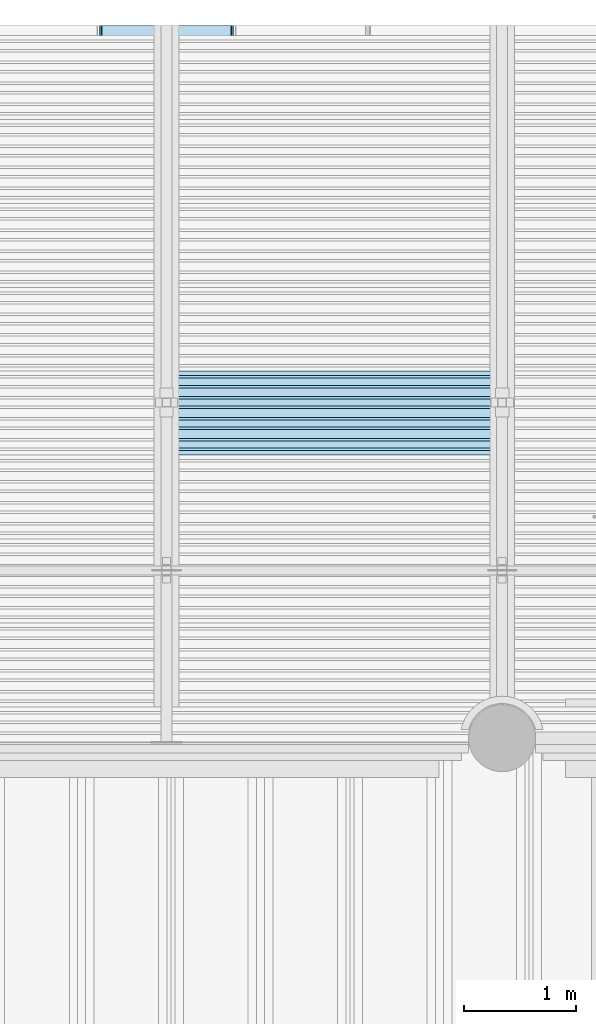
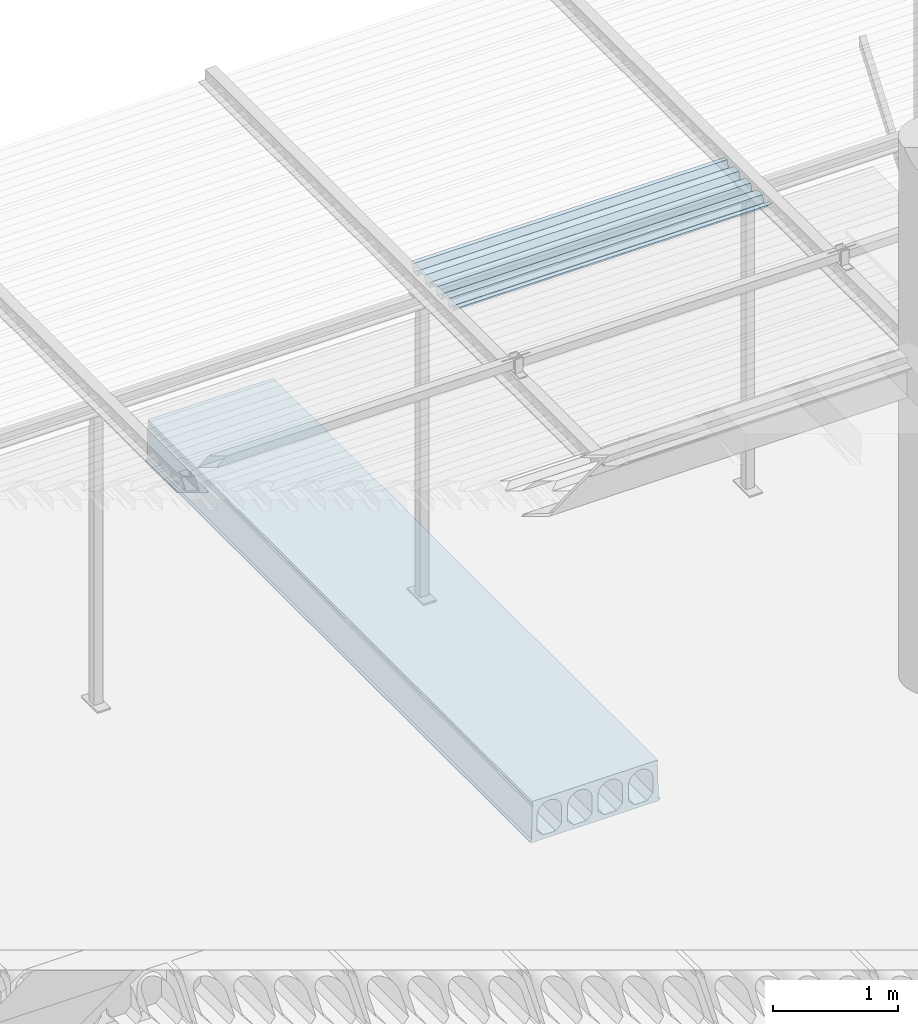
# One storey, part 90 of 98: 2 slabs.
"""IFC2X3 building model written with IfcOpenShell, lengths in millimetres."""

from ifc_helpers import new_model, entity, si_unit, converted_unit, derived_unit, direction, frame, origin_with_axes, place, context, subcontext, project, spatial, faceted_brep, material, type_object, element, save


model = new_model("IFC2X3")

# Units and contexts
model_context = context("Model", 3, precision=0.01, world=frame((0.0, 4.29681676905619e-09, 0.0)), true_north=direction((4.01073788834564e-13, 1.0)))
plan_context = context("Plan", 3, precision=0.01, world=frame((0.0, 4.29681676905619e-09, 0.0)), true_north=direction((4.01073788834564e-13, 1.0)))
body_context = subcontext(model_context, "Body", "Model", "MODEL_VIEW")
ifc_project = project(units=[converted_unit("PLANEANGLEUNIT", "DEGREE", entity("IfcPositiveLengthMeasure", 0.0174532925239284), si_unit("PLANEANGLEUNIT", "RADIAN"), dimensions=[0, 0, 0, 0, 0, 0, 0]), si_unit("AREAUNIT", "SQUARE_METRE"), si_unit("LENGTHUNIT", "METRE", prefix="MILLI"), si_unit("MASSUNIT", "GRAM", prefix="KILO"), si_unit("POWERUNIT", "WATT"), si_unit("PRESSUREUNIT", "PASCAL"), si_unit("FORCEUNIT", "NEWTON", prefix="KILO"), si_unit("ELECTRICCURRENTUNIT", "AMPERE"), si_unit("THERMODYNAMICTEMPERATUREUNIT", "DEGREE_CELSIUS"), si_unit("TIMEUNIT", "SECOND"), si_unit("VOLUMEUNIT", "CUBIC_METRE"), derived_unit("LINEARVELOCITYUNIT", [(si_unit("LENGTHUNIT", "METRE"), 1), (si_unit("TIMEUNIT", "SECOND"), -1)]), derived_unit("VOLUMETRICFLOWRATEUNIT", [(si_unit("VOLUMEUNIT", "CUBIC_METRE"), 1), (si_unit("TIMEUNIT", "SECOND"), -1)]), derived_unit("THERMALTRANSMITTANCEUNIT", [(si_unit("POWERUNIT", "WATT"), 1), (si_unit("THERMODYNAMICTEMPERATUREUNIT", "KELVIN"), -1), (si_unit("AREAUNIT", "SQUARE_METRE"), -1)])], contexts=[model_context, plan_context])

# Site, building, storey
site_placement = place(None, frame((0.0, -4.29681676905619e-09, 0.0), z_axis=(0.0, 0.0, 1.0), x_axis=(1.0, 0.0, 0.0)))
site = spatial("IfcSite", under=ifc_project, at=site_placement, Name="Gardermoen", CompositionType="ELEMENT")
building_placement = place(site_placement, frame((0.0, 4.29681676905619e-09, 0.0), z_axis=(0.0, 0.0, 1.0), x_axis=(1.0, 0.0, 0.0)))
building = spatial("IfcBuilding", under=site, at=building_placement, Name="TS", CompositionType="ELEMENT")
storey_placement = place(building_placement, origin_with_axes())
storey = spatial("IfcBuildingStorey", under=building, at=storey_placement, Name="D", CompositionType="ELEMENT", Elevation=0.0)

# Slabs
slab_type_1 = type_object("IfcSlabType", Name="HD400", PredefinedType="NOTDEFINED")
slab_1_placement = place(storey_placement, frame((525999.999766, 414739.995625, 203600.0), z_axis=(0.0, 0.0, 1.0), x_axis=(0.0, 1.0, 0.0)))
element("IfcSlab", 1, at=slab_1_placement, inside=storey, type_object=slab_type_1, Name="HULLDEKKE", ObjectType="HD400", PredefinedType="FLOOR", context=body_context, shape_type="Brep", body=[
    faceted_brep([(6130.19582840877, 600.0, -190.0), (6130.19582840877, 600.0, -180.0), (0.0, 600.0, -180.0), (0.0, 600.0, -190.0), (6130.19582840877, 585.0, -170.0), (0.0, 585.0, -170.0), (6130.19582840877, 577.5, 145.0), (0.0, 577.5, 145.0), (6130.19582840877, 570.0, 160.0), (0.0, 570.0, 160.0), (6130.19582840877, 577.5, 175.0), (0.0, 577.5, 175.0), (6130.19582840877, 577.5, 200.0), (0.0, 577.5, 200.0), (6130.19582840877, -577.5, 200.0), (0.0, -577.5, 200.0), (6130.19582840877, -577.5, 175.0), (0.0, -577.5, 175.0), (6130.19582840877, -570.0, 160.0), (0.0, -570.0, 160.0), (6130.19582840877, -577.5, 145.0), (0.0, -577.5, 145.0), (6130.19582840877, -585.0, -170.0), (0.0, -585.0, -170.0), (6130.19582840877, -600.0, -180.0), (0.0, -600.0, -180.0), (6130.19582840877, -600.0, -190.0), (0.0, -600.0, -190.0), (6130.19582840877, -583.380004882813, -200.0), (0.0, -583.380004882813, -200.0), (6130.19582840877, 583.380004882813, -200.0), (0.0, 583.380004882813, -200.0), (6130.19582840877, -362.5, -160.0), (6130.19582840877, -477.5, -160.0), (0.0, -477.5, -160.0), (0.0, -362.5, -160.0), (6130.19582840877, -532.5, -105.0), (0.0, -532.5, -105.0), (6130.19582840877, -532.5, 47.5), (0.0, -532.5, 47.5), (6130.19582840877, -532.115755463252, 56.7901763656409), (0.0, -532.115755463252, 56.7901763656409), (6130.19582840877, -530.965646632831, 66.0168914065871), (0.0, -530.965646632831, 66.0168914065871), (6130.19582840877, -529.057529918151, 75.1171173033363), (0.0, -529.057529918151, 75.1171173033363), (6130.19582840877, -526.404439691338, 84.028690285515), (0.0, -526.404439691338, 84.028690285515), (6130.19582840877, -523.024499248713, 92.6907352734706), (0.0, -523.024499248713, 92.6907352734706), (6130.19582840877, -518.940797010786, 101.044081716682), (0.0, -518.940797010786, 101.044081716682), (6130.19582840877, -514.181228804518, 109.031667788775), (0.0, -514.181228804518, 109.031667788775), (6130.19582840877, -508.778307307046, 116.598930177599), (0.0, -508.778307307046, 116.598930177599), (6130.19582840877, -502.768939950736, 123.694176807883), (0.0, -502.768939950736, 123.694176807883), (6130.19582840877, -496.194176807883, 130.268939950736), (0.0, -496.194176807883, 130.268939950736), (6130.19582840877, -489.098930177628, 136.278307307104), (0.0, -489.098930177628, 136.278307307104), (6130.19582840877, -481.531667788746, 141.681228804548), (0.0, -481.531667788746, 141.681228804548), (6130.19582840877, -473.544081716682, 146.440797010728), (0.0, -473.544081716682, 146.440797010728), (6130.19582840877, -465.190735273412, 150.524499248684), (0.0, -465.190735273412, 150.524499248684), (6130.19582840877, -456.528690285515, 153.904439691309), (0.0, -456.528690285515, 153.904439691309), (6130.19582840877, -447.617117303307, 156.55752991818), (0.0, -447.617117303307, 156.55752991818), (6130.19582840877, -438.516891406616, 158.465646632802), (0.0, -438.516891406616, 158.465646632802), (6130.19582840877, -429.290176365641, 159.615755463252), (0.0, -429.290176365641, 159.615755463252), (6130.19582840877, -420.0, 160.0), (0.0, -420.0, 160.0), (6130.19582840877, -410.709823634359, 159.615755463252), (0.0, -410.709823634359, 159.615755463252), (6130.19582840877, -401.483108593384, 158.465646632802), (0.0, -401.483108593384, 158.465646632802), (6130.19582840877, -392.382882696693, 156.55752991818), (0.0, -392.382882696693, 156.55752991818), (6130.19582840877, -383.471309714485, 153.904439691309), (0.0, -383.471309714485, 153.904439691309), (6130.19582840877, -374.809264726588, 150.524499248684), (0.0, -374.809264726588, 150.524499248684), (6130.19582840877, -366.455918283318, 146.440797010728), (0.0, -366.455918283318, 146.440797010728), (6130.19582840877, -358.468332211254, 141.681228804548), (0.0, -358.468332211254, 141.681228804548), (6130.19582840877, -350.901069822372, 136.278307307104), (0.0, -350.901069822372, 136.278307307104), (6130.19582840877, -343.805823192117, 130.268939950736), (0.0, -343.805823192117, 130.268939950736), (6130.19582840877, -337.231060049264, 123.694176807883), (0.0, -337.231060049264, 123.694176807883), (6130.19582840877, -331.221692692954, 116.598930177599), (0.0, -331.221692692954, 116.598930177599), (6130.19582840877, -325.818771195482, 109.031667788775), (0.0, -325.818771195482, 109.031667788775), (6130.19582840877, -321.059202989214, 101.044081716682), (0.0, -321.059202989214, 101.044081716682), (6130.19582840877, -316.975500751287, 92.6907352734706), (0.0, -316.975500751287, 92.6907352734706), (6130.19582840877, -313.595560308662, 84.028690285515), (0.0, -313.595560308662, 84.028690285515), (6130.19582840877, -310.942470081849, 75.1171173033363), (0.0, -310.942470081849, 75.1171173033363), (6130.19582840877, -309.034353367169, 66.0168914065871), (0.0, -309.034353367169, 66.0168914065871), (6130.19582840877, -307.884244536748, 56.7901763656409), (0.0, -307.884244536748, 56.7901763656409), (6130.19582840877, -307.5, 47.5), (0.0, -307.5, 47.5), (6130.19582840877, -307.5, -105.0), (0.0, -307.5, -105.0), (6130.19582840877, -82.5, -160.0), (6130.19582840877, -197.5, -160.0), (0.0, -197.5, -160.0), (0.0, -82.5, -160.0), (6130.19582840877, -252.5, -105.0), (0.0, -252.5, -105.0), (6130.19582840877, -252.5, 47.5), (0.0, -252.5, 47.5), (6130.19582840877, -252.115755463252, 56.7901763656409), (0.0, -252.115755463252, 56.7901763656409), (6130.19582840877, -250.965646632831, 66.0168914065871), (0.0, -250.965646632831, 66.0168914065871), (6130.19582840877, -249.057529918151, 75.1171173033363), (0.0, -249.057529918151, 75.1171173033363), (6130.19582840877, -246.404439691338, 84.028690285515), (0.0, -246.404439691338, 84.028690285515), (6130.19582840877, -243.024499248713, 92.6907352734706), (0.0, -243.024499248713, 92.6907352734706), (6130.19582840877, -238.940797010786, 101.044081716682), (0.0, -238.940797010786, 101.044081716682), (6130.19582840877, -234.181228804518, 109.031667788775), (0.0, -234.181228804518, 109.031667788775), (6130.19582840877, -228.778307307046, 116.598930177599), (0.0, -228.778307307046, 116.598930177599), (6130.19582840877, -222.768939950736, 123.694176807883), (0.0, -222.768939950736, 123.694176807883), (6130.19582840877, -216.194176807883, 130.268939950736), (0.0, -216.194176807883, 130.268939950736), (6130.19582840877, -209.098930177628, 136.278307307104), (0.0, -209.098930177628, 136.278307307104), (6130.19582840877, -201.531667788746, 141.681228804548), (0.0, -201.531667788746, 141.681228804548), (6130.19582840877, -193.544081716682, 146.440797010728), (0.0, -193.544081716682, 146.440797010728), (6130.19582840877, -185.190735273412, 150.524499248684), (0.0, -185.190735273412, 150.524499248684), (6130.19582840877, -176.528690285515, 153.904439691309), (0.0, -176.528690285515, 153.904439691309), (6130.19582840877, -167.617117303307, 156.55752991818), (0.0, -167.617117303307, 156.55752991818), (6130.19582840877, -158.516891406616, 158.465646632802), (0.0, -158.516891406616, 158.465646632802), (6130.19582840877, -149.290176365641, 159.615755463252), (0.0, -149.290176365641, 159.615755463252), (6130.19582840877, -140.0, 160.0), (0.0, -140.0, 160.0), (6130.19582840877, -130.709823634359, 159.615755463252), (0.0, -130.709823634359, 159.615755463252), (6130.19582840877, -121.483108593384, 158.465646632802), (0.0, -121.483108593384, 158.465646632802), (6130.19582840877, -112.382882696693, 156.55752991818), (0.0, -112.382882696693, 156.55752991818), (6130.19582840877, -103.471309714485, 153.904439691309), (0.0, -103.471309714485, 153.904439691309), (6130.19582840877, -94.8092647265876, 150.524499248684), (0.0, -94.8092647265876, 150.524499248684), (6130.19582840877, -86.4559182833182, 146.440797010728), (0.0, -86.4559182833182, 146.440797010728), (6130.19582840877, -78.4683322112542, 141.681228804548), (0.0, -78.4683322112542, 141.681228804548), (6130.19582840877, -70.9010698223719, 136.278307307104), (0.0, -70.9010698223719, 136.278307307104), (6130.19582840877, -63.8058231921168, 130.268939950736), (0.0, -63.8058231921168, 130.268939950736), (6130.19582840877, -57.2310600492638, 123.694176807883), (0.0, -57.2310600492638, 123.694176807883), (6130.19582840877, -51.2216926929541, 116.598930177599), (0.0, -51.2216926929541, 116.598930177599), (6130.19582840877, -45.8187711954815, 109.031667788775), (0.0, -45.8187711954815, 109.031667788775), (6130.19582840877, -41.0592029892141, 101.044081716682), (0.0, -41.0592029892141, 101.044081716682), (6130.19582840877, -36.9755007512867, 92.6907352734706), (0.0, -36.9755007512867, 92.6907352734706), (6130.19582840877, -33.5955603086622, 84.028690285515), (0.0, -33.5955603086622, 84.028690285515), (6130.19582840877, -30.942470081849, 75.1171173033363), (0.0, -30.942470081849, 75.1171173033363), (6130.19582840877, -29.0343533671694, 66.0168914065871), (0.0, -29.0343533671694, 66.0168914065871), (6130.19582840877, -27.8842445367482, 56.7901763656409), (0.0, -27.8842445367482, 56.7901763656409), (6130.19582840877, -27.5, 47.5), (0.0, -27.5, 47.5), (6130.19582840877, -27.5, -105.0), (0.0, -27.5, -105.0), (6130.19582840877, 197.5, -160.0), (6130.19582840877, 82.5, -160.0), (0.0, 82.5, -160.0), (0.0, 197.5, -160.0), (6130.19582840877, 27.5, -105.0), (0.0, 27.5, -105.0), (6130.19582840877, 27.5, 47.5), (0.0, 27.5, 47.5), (6130.19582840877, 27.8842445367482, 56.7901763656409), (0.0, 27.8842445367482, 56.7901763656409), (6130.19582840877, 29.0343533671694, 66.0168914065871), (0.0, 29.0343533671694, 66.0168914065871), (6130.19582840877, 30.942470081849, 75.1171173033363), (0.0, 30.942470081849, 75.1171173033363), (6130.19582840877, 33.5955603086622, 84.028690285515), (0.0, 33.5955603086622, 84.028690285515), (6130.19582840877, 36.9755007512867, 92.6907352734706), (0.0, 36.9755007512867, 92.6907352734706), (6130.19582840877, 41.0592029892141, 101.044081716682), (0.0, 41.0592029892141, 101.044081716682), (6130.19582840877, 45.8187711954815, 109.031667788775), (0.0, 45.8187711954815, 109.031667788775), (6130.19582840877, 51.2216926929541, 116.598930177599), (0.0, 51.2216926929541, 116.598930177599), (6130.19582840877, 57.2310600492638, 123.694176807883), (0.0, 57.2310600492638, 123.694176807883), (6130.19582840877, 63.8058231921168, 130.268939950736), (0.0, 63.8058231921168, 130.268939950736), (6130.19582840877, 70.9010698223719, 136.278307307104), (0.0, 70.9010698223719, 136.278307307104), (6130.19582840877, 78.4683322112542, 141.681228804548), (0.0, 78.4683322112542, 141.681228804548), (6130.19582840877, 86.4559182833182, 146.440797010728), (0.0, 86.4559182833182, 146.440797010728), (6130.19582840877, 94.8092647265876, 150.524499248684), (0.0, 94.8092647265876, 150.524499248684), (6130.19582840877, 103.471309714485, 153.904439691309), (0.0, 103.471309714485, 153.904439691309), (6130.19582840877, 112.382882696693, 156.55752991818), (0.0, 112.382882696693, 156.55752991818), (6130.19582840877, 121.483108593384, 158.465646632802), (0.0, 121.483108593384, 158.465646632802), (6130.19582840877, 130.709823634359, 159.615755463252), (0.0, 130.709823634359, 159.615755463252), (6130.19582840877, 140.0, 160.0), (0.0, 140.0, 160.0), (6130.19582840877, 149.290176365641, 159.615755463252), (0.0, 149.290176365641, 159.615755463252), (6130.19582840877, 158.516891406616, 158.465646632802), (0.0, 158.516891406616, 158.465646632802), (6130.19582840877, 167.617117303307, 156.55752991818), (0.0, 167.617117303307, 156.55752991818), (6130.19582840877, 176.528690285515, 153.904439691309), (0.0, 176.528690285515, 153.904439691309), (6130.19582840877, 185.190735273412, 150.524499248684), (0.0, 185.190735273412, 150.524499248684), (6130.19582840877, 193.544081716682, 146.440797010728), (0.0, 193.544081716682, 146.440797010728), (6130.19582840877, 201.531667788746, 141.681228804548), (0.0, 201.531667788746, 141.681228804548), (6130.19582840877, 209.098930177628, 136.278307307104), (0.0, 209.098930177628, 136.278307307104), (6130.19582840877, 216.194176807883, 130.268939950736), (0.0, 216.194176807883, 130.268939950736), (6130.19582840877, 222.768939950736, 123.694176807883), (0.0, 222.768939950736, 123.694176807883), (6130.19582840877, 228.778307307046, 116.598930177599), (0.0, 228.778307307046, 116.598930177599), (6130.19582840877, 234.181228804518, 109.031667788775), (0.0, 234.181228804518, 109.031667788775), (6130.19582840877, 238.940797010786, 101.044081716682), (0.0, 238.940797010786, 101.044081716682), (6130.19582840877, 243.024499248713, 92.6907352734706), (0.0, 243.024499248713, 92.6907352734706), (6130.19582840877, 246.404439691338, 84.028690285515), (0.0, 246.404439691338, 84.028690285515), (6130.19582840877, 249.057529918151, 75.1171173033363), (0.0, 249.057529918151, 75.1171173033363), (6130.19582840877, 250.965646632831, 66.0168914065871), (0.0, 250.965646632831, 66.0168914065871), (6130.19582840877, 252.115755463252, 56.7901763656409), (0.0, 252.115755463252, 56.7901763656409), (6130.19582840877, 252.5, 47.5), (0.0, 252.5, 47.5), (6130.19582840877, 252.5, -105.0), (0.0, 252.5, -105.0), (6130.19582840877, 477.5, -160.0), (6130.19582840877, 362.5, -160.0), (0.0, 362.5, -160.0), (0.0, 477.5, -160.0), (6130.19582840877, 307.5, -105.0), (0.0, 307.5, -105.0), (6130.19582840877, 307.5, 47.5), (0.0, 307.5, 47.5), (6130.19582840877, 307.884244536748, 56.7901763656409), (0.0, 307.884244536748, 56.7901763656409), (6130.19582840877, 309.034353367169, 66.0168914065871), (0.0, 309.034353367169, 66.0168914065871), (6130.19582840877, 310.942470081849, 75.1171173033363), (0.0, 310.942470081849, 75.1171173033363), (6130.19582840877, 313.595560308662, 84.028690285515), (0.0, 313.595560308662, 84.028690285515), (6130.19582840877, 316.975500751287, 92.6907352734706), (0.0, 316.975500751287, 92.6907352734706), (6130.19582840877, 321.059202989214, 101.044081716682), (0.0, 321.059202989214, 101.044081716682), (6130.19582840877, 325.818771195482, 109.031667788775), (0.0, 325.818771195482, 109.031667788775), (6130.19582840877, 331.221692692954, 116.598930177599), (0.0, 331.221692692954, 116.598930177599), (6130.19582840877, 337.231060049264, 123.694176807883), (0.0, 337.231060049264, 123.694176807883), (6130.19582840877, 343.805823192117, 130.268939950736), (0.0, 343.805823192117, 130.268939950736), (6130.19582840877, 350.901069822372, 136.278307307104), (0.0, 350.901069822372, 136.278307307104), (6130.19582840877, 358.468332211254, 141.681228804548), (0.0, 358.468332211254, 141.681228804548), (6130.19582840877, 366.455918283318, 146.440797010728), (0.0, 366.455918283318, 146.440797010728), (6130.19582840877, 374.809264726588, 150.524499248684), (0.0, 374.809264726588, 150.524499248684), (6130.19582840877, 383.471309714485, 153.904439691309), (0.0, 383.471309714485, 153.904439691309), (6130.19582840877, 392.382882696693, 156.55752991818), (0.0, 392.382882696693, 156.55752991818), (6130.19582840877, 401.483108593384, 158.465646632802), (0.0, 401.483108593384, 158.465646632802), (6130.19582840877, 410.709823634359, 159.615755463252), (0.0, 410.709823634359, 159.615755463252), (6130.19582840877, 420.0, 160.0), (0.0, 420.0, 160.0), (6130.19582840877, 429.290176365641, 159.615755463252), (0.0, 429.290176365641, 159.615755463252), (6130.19582840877, 438.516891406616, 158.465646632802), (0.0, 438.516891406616, 158.465646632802), (6130.19582840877, 447.617117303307, 156.55752991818), (0.0, 447.617117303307, 156.55752991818), (6130.19582840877, 456.528690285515, 153.904439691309), (0.0, 456.528690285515, 153.904439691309), (6130.19582840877, 465.190735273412, 150.524499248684), (0.0, 465.190735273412, 150.524499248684), (6130.19582840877, 473.544081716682, 146.440797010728), (0.0, 473.544081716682, 146.440797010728), (6130.19582840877, 481.531667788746, 141.681228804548), (0.0, 481.531667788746, 141.681228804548), (6130.19582840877, 489.098930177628, 136.278307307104), (0.0, 489.098930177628, 136.278307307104), (6130.19582840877, 496.194176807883, 130.268939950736), (0.0, 496.194176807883, 130.268939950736), (6130.19582840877, 502.768939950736, 123.694176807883), (0.0, 502.768939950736, 123.694176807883), (6130.19582840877, 508.778307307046, 116.598930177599), (0.0, 508.778307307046, 116.598930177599), (6130.19582840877, 514.181228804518, 109.031667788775), (0.0, 514.181228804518, 109.031667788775), (6130.19582840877, 518.940797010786, 101.044081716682), (0.0, 518.940797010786, 101.044081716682), (6130.19582840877, 523.024499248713, 92.6907352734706), (0.0, 523.024499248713, 92.6907352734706), (6130.19582840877, 526.404439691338, 84.028690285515), (0.0, 526.404439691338, 84.028690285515), (6130.19582840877, 529.057529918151, 75.1171173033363), (0.0, 529.057529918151, 75.1171173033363), (6130.19582840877, 530.965646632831, 66.0168914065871), (0.0, 530.965646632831, 66.0168914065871), (6130.19582840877, 532.115755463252, 56.7901763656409), (0.0, 532.115755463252, 56.7901763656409), (6130.19582840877, 532.5, 47.5), (0.0, 532.5, 47.5), (6130.19582840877, 532.5, -105.0), (0.0, 532.5, -105.0)], [[[0, 1, 2, 3]], [[1, 4, 5, 2]], [[4, 6, 7, 5]], [[6, 8, 9, 7]], [[8, 10, 11, 9]], [[10, 12, 13, 11]], [[12, 14, 15, 13]], [[14, 16, 17, 15]], [[16, 18, 19, 17]], [[18, 20, 21, 19]], [[20, 22, 23, 21]], [[22, 24, 25, 23]], [[24, 26, 27, 25]], [[26, 28, 29, 27]], [[28, 30, 31, 29]], [[30, 0, 3, 31]], [[32, 33, 34, 35]], [[33, 36, 37, 34]], [[36, 38, 39, 37]], [[38, 40, 41, 39]], [[40, 42, 43, 41]], [[42, 44, 45, 43]], [[44, 46, 47, 45]], [[46, 48, 49, 47]], [[48, 50, 51, 49]], [[50, 52, 53, 51]], [[52, 54, 55, 53]], [[54, 56, 57, 55]], [[56, 58, 59, 57]], [[58, 60, 61, 59]], [[60, 62, 63, 61]], [[62, 64, 65, 63]], [[64, 66, 67, 65]], [[66, 68, 69, 67]], [[68, 70, 71, 69]], [[70, 72, 73, 71]], [[72, 74, 75, 73]], [[74, 76, 77, 75]], [[76, 78, 79, 77]], [[78, 80, 81, 79]], [[80, 82, 83, 81]], [[82, 84, 85, 83]], [[84, 86, 87, 85]], [[86, 88, 89, 87]], [[88, 90, 91, 89]], [[90, 92, 93, 91]], [[92, 94, 95, 93]], [[94, 96, 97, 95]], [[96, 98, 99, 97]], [[98, 100, 101, 99]], [[100, 102, 103, 101]], [[102, 104, 105, 103]], [[104, 106, 107, 105]], [[106, 108, 109, 107]], [[108, 110, 111, 109]], [[110, 112, 113, 111]], [[112, 114, 115, 113]], [[114, 116, 117, 115]], [[116, 32, 35, 117]], [[118, 119, 120, 121]], [[119, 122, 123, 120]], [[122, 124, 125, 123]], [[124, 126, 127, 125]], [[126, 128, 129, 127]], [[128, 130, 131, 129]], [[130, 132, 133, 131]], [[132, 134, 135, 133]], [[134, 136, 137, 135]], [[136, 138, 139, 137]], [[138, 140, 141, 139]], [[140, 142, 143, 141]], [[142, 144, 145, 143]], [[144, 146, 147, 145]], [[146, 148, 149, 147]], [[148, 150, 151, 149]], [[150, 152, 153, 151]], [[152, 154, 155, 153]], [[154, 156, 157, 155]], [[156, 158, 159, 157]], [[158, 160, 161, 159]], [[160, 162, 163, 161]], [[162, 164, 165, 163]], [[164, 166, 167, 165]], [[166, 168, 169, 167]], [[168, 170, 171, 169]], [[170, 172, 173, 171]], [[172, 174, 175, 173]], [[174, 176, 177, 175]], [[176, 178, 179, 177]], [[178, 180, 181, 179]], [[180, 182, 183, 181]], [[182, 184, 185, 183]], [[184, 186, 187, 185]], [[186, 188, 189, 187]], [[188, 190, 191, 189]], [[190, 192, 193, 191]], [[192, 194, 195, 193]], [[194, 196, 197, 195]], [[196, 198, 199, 197]], [[198, 200, 201, 199]], [[200, 202, 203, 201]], [[202, 118, 121, 203]], [[204, 205, 206, 207]], [[205, 208, 209, 206]], [[208, 210, 211, 209]], [[210, 212, 213, 211]], [[212, 214, 215, 213]], [[214, 216, 217, 215]], [[216, 218, 219, 217]], [[218, 220, 221, 219]], [[220, 222, 223, 221]], [[222, 224, 225, 223]], [[224, 226, 227, 225]], [[226, 228, 229, 227]], [[228, 230, 231, 229]], [[230, 232, 233, 231]], [[232, 234, 235, 233]], [[234, 236, 237, 235]], [[236, 238, 239, 237]], [[238, 240, 241, 239]], [[240, 242, 243, 241]], [[242, 244, 245, 243]], [[244, 246, 247, 245]], [[246, 248, 249, 247]], [[248, 250, 251, 249]], [[250, 252, 253, 251]], [[252, 254, 255, 253]], [[254, 256, 257, 255]], [[256, 258, 259, 257]], [[258, 260, 261, 259]], [[260, 262, 263, 261]], [[262, 264, 265, 263]], [[264, 266, 267, 265]], [[266, 268, 269, 267]], [[268, 270, 271, 269]], [[270, 272, 273, 271]], [[272, 274, 275, 273]], [[274, 276, 277, 275]], [[276, 278, 279, 277]], [[278, 280, 281, 279]], [[280, 282, 283, 281]], [[282, 284, 285, 283]], [[284, 286, 287, 285]], [[286, 288, 289, 287]], [[288, 204, 207, 289]], [[290, 291, 292, 293]], [[291, 294, 295, 292]], [[294, 296, 297, 295]], [[296, 298, 299, 297]], [[298, 300, 301, 299]], [[300, 302, 303, 301]], [[302, 304, 305, 303]], [[304, 306, 307, 305]], [[306, 308, 309, 307]], [[308, 310, 311, 309]], [[310, 312, 313, 311]], [[312, 314, 315, 313]], [[314, 316, 317, 315]], [[316, 318, 319, 317]], [[318, 320, 321, 319]], [[320, 322, 323, 321]], [[322, 324, 325, 323]], [[324, 326, 327, 325]], [[326, 328, 329, 327]], [[328, 330, 331, 329]], [[330, 332, 333, 331]], [[332, 334, 335, 333]], [[334, 336, 337, 335]], [[336, 338, 339, 337]], [[338, 340, 341, 339]], [[340, 342, 343, 341]], [[342, 344, 345, 343]], [[344, 346, 347, 345]], [[346, 348, 349, 347]], [[348, 350, 351, 349]], [[350, 352, 353, 351]], [[352, 354, 355, 353]], [[354, 356, 357, 355]], [[356, 358, 359, 357]], [[358, 360, 361, 359]], [[360, 362, 363, 361]], [[362, 364, 365, 363]], [[364, 366, 367, 365]], [[366, 368, 369, 367]], [[368, 370, 371, 369]], [[370, 372, 373, 371]], [[372, 374, 375, 373]], [[374, 290, 293, 375]], [[3, 2, 5, 7, 9, 11, 13, 15, 17, 19, 21, 23, 25, 27, 29, 31], [293, 292, 295, 297, 299, 301, 303, 305, 307, 309, 311, 313, 315, 317, 319, 321, 323, 325, 327, 329, 331, 333, 335, 337, 339, 341, 343, 345, 347, 349, 351, 353, 355, 357, 359, 361, 363, 365, 367, 369, 371, 373, 375], [207, 206, 209, 211, 213, 215, 217, 219, 221, 223, 225, 227, 229, 231, 233, 235, 237, 239, 241, 243, 245, 247, 249, 251, 253, 255, 257, 259, 261, 263, 265, 267, 269, 271, 273, 275, 277, 279, 281, 283, 285, 287, 289], [121, 120, 123, 125, 127, 129, 131, 133, 135, 137, 139, 141, 143, 145, 147, 149, 151, 153, 155, 157, 159, 161, 163, 165, 167, 169, 171, 173, 175, 177, 179, 181, 183, 185, 187, 189, 191, 193, 195, 197, 199, 201, 203], [35, 34, 37, 39, 41, 43, 45, 47, 49, 51, 53, 55, 57, 59, 61, 63, 65, 67, 69, 71, 73, 75, 77, 79, 81, 83, 85, 87, 89, 91, 93, 95, 97, 99, 101, 103, 105, 107, 109, 111, 113, 115, 117]], [[30, 28, 26, 24, 22, 20, 18, 16, 14, 12, 10, 8, 6, 4, 1, 0], [116, 114, 112, 110, 108, 106, 104, 102, 100, 98, 96, 94, 92, 90, 88, 86, 84, 82, 80, 78, 76, 74, 72, 70, 68, 66, 64, 62, 60, 58, 56, 54, 52, 50, 48, 46, 44, 42, 40, 38, 36, 33, 32], [202, 200, 198, 196, 194, 192, 190, 188, 186, 184, 182, 180, 178, 176, 174, 172, 170, 168, 166, 164, 162, 160, 158, 156, 154, 152, 150, 148, 146, 144, 142, 140, 138, 136, 134, 132, 130, 128, 126, 124, 122, 119, 118], [288, 286, 284, 282, 280, 278, 276, 274, 272, 270, 268, 266, 264, 262, 260, 258, 256, 254, 252, 250, 248, 246, 244, 242, 240, 238, 236, 234, 232, 230, 228, 226, 224, 222, 220, 218, 216, 214, 212, 210, 208, 205, 204], [374, 372, 370, 368, 366, 364, 362, 360, 358, 356, 354, 352, 350, 348, 346, 344, 342, 340, 338, 336, 334, 332, 330, 328, 326, 324, 322, 320, 318, 316, 314, 312, 310, 308, 306, 304, 302, 300, 298, 296, 294, 291, 290]]], orient=[[False], [False], [False], [False], [False], [False], [False], [False], [False], [False], [False], [False], [False], [False], [False], [False], [False], [False], [False], [False], [False], [False], [False], [False], [False], [False], [False], [False], [False], [False], [False], [False], [False], [False], [False], [False], [False], [False], [False], [False], [False], [False], [False], [False], [False], [False], [False], [False], [False], [False], [False], [False], [False], [False], [False], [False], [False], [False], [False], [False], [False], [False], [False], [False], [False], [False], [False], [False], [False], [False], [False], [False], [False], [False], [False], [False], [False], [False], [False], [False], [False], [False], [False], [False], [False], [False], [False], [False], [False], [False], [False], [False], [False], [False], [False], [False], [False], [False], [False], [False], [False], [False], [False], [False], [False], [False], [False], [False], [False], [False], [False], [False], [False], [False], [False], [False], [False], [False], [False], [False], [False], [False], [False], [False], [False], [False], [False], [False], [False], [False], [False], [False], [False], [False], [False], [False], [False], [False], [False], [False], [False], [False], [False], [False], [False], [False], [False], [False], [False], [False], [False], [False], [False], [False], [False], [False], [False], [False], [False], [False], [False], [False], [False], [False], [False], [False], [False], [False], [False], [False], [False], [False], [False], [False], [False], [False], [False], [False], [False], [False], [False], [False], [False], [False], [False], [False], [False], [False], [False, False, False, False, False], [False, False, False, False, False]]),
])
ifc_material = material(Name="STEEL/S355")
slab_type_2 = type_object("IfcSlabType", Name="PLANJA70", PredefinedType="NOTDEFINED")
slab_2_placement = place(storey_placement, frame((528950.000000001, 417404.996695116, 206958.849718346), z_axis=(0.0, 0.0, 1.0), x_axis=(-0.999999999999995, -9.99999902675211e-08, 0.0)))
element("IfcSlab", 2, at=slab_2_placement, inside=storey, type_object=slab_type_2, material=ifc_material, Name="STÅLTAK", ObjectType="PLANJA70", PredefinedType="FLOOR", context=body_context, shape_type="Brep", body=[
    faceted_brep([(0.0, 375.0, 34.1500015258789), (0.0, 335.299987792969, 34.1500015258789), (2900.00079747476, 335.299987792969, 34.1500015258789), (2900.00079747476, 375.0, 34.1500015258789), (0.0, 313.010681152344, -32.1500015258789), (2900.00079747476, 313.010681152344, -32.1500015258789), (0.0, 249.489303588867, -32.1500015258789), (2900.00079747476, 249.489303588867, -32.1500015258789), (0.0, 227.199996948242, 34.1500015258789), (2900.00079747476, 227.199996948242, 34.1500015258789), (0.0, 147.800003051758, 34.1500015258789), (2900.00079747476, 147.800003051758, 34.1500015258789), (0.0, 125.280120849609, -33.1500015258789), (2900.00079747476, 125.280120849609, -33.1500015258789), (0.0, 62.2198791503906, -33.1500015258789), (2900.00079747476, 62.2198791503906, -33.1500015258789), (0.0, 39.7000007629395, 34.1500015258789), (2900.00079747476, 39.7000007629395, 34.1500015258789), (0.0, -39.7000007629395, 34.1500015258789), (2900.00079747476, -39.7000007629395, 34.1500015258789), (0.0, -62.2198791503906, -33.1500015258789), (2900.00079747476, -62.2198791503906, -33.1500015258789), (0.0, -125.280120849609, -33.1500015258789), (2900.00079747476, -125.280120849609, -33.1500015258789), (0.0, -147.800003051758, 34.1500015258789), (2900.00079747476, -147.800003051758, 34.1500015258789), (0.0, -227.199996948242, 34.1500015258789), (2900.00079747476, -227.199996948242, 34.1500015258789), (0.0, -249.719879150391, -33.1500015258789), (2900.00079747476, -249.719879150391, -33.1500015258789), (0.0, -312.781188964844, -33.1500015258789), (2900.00079747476, -312.781188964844, -33.1500015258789), (0.0, -335.070495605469, 33.1500015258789), (2900.00079747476, -335.070495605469, 33.1500015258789), (0.0, -375.0, 33.1500015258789), (2900.00079747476, -375.0, 33.1500015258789), (0.0, -375.0, 32.1500015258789), (2900.00079747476, -375.0, 32.1500015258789), (0.0, -335.789306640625, 32.1500015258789), (2900.00079747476, -335.789306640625, 32.1500015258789), (0.0, -313.5, -34.1500015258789), (2900.00079747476, -313.5, -34.1500015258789), (0.0, -249.0, -34.1500015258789), (2900.00079747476, -249.0, -34.1500015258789), (0.0, -226.480117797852, 33.1500015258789), (2900.00079747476, -226.480117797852, 33.1500015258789), (0.0, -148.519882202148, 33.1500015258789), (2900.00079747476, -148.519882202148, 33.1500015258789), (0.0, -126.0, -34.1500015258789), (2900.00079747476, -126.0, -34.1500015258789), (0.0, -61.5, -34.1500015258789), (2900.00079747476, -61.5, -34.1500015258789), (0.0, -38.9801177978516, 33.1500015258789), (2900.00079747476, -38.9801177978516, 33.1500015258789), (0.0, 38.9801177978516, 33.1500015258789), (2900.00079747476, 38.9801177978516, 33.1500015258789), (0.0, 61.5, -34.1500015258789), (2900.00079747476, 61.5, -34.1500015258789), (0.0, 126.0, -34.1500015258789), (2900.00079747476, 126.0, -34.1500015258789), (0.0, 148.519882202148, 33.1500015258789), (2900.00079747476, 148.519882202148, 33.1500015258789), (0.0, 226.481185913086, 33.1500015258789), (2900.00079747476, 226.481185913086, 33.1500015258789), (0.0, 248.770492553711, -33.1500015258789), (2900.00079747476, 248.770492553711, -33.1500015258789), (0.0, 313.7294921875, -33.1500015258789), (2900.00079747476, 313.7294921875, -33.1500015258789), (0.0, 336.018798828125, 33.1500015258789), (2900.00079747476, 336.018798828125, 33.1500015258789), (0.0, 375.0, 33.1500015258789), (2900.00079747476, 375.0, 33.1500015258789)], [[[0, 1, 2, 3]], [[1, 4, 5, 2]], [[4, 6, 7, 5]], [[6, 8, 9, 7]], [[8, 10, 11, 9]], [[10, 12, 13, 11]], [[12, 14, 15, 13]], [[14, 16, 17, 15]], [[16, 18, 19, 17]], [[18, 20, 21, 19]], [[22, 23, 21, 20]], [[22, 24, 25, 23]], [[24, 26, 27, 25]], [[26, 28, 29, 27]], [[28, 30, 31, 29]], [[30, 32, 33, 31]], [[32, 34, 35, 33]], [[34, 36, 37, 35]], [[36, 38, 39, 37]], [[38, 40, 41, 39]], [[40, 42, 43, 41]], [[42, 44, 45, 43]], [[44, 46, 47, 45]], [[46, 48, 49, 47]], [[48, 50, 51, 49]], [[50, 52, 53, 51]], [[52, 54, 55, 53]], [[54, 56, 57, 55]], [[56, 58, 59, 57]], [[58, 60, 61, 59]], [[60, 62, 63, 61]], [[62, 64, 65, 63]], [[64, 66, 67, 65]], [[66, 68, 69, 67]], [[68, 70, 71, 69]], [[70, 0, 3, 71]], [[5, 7, 9, 11, 13, 15, 17, 19, 21, 23, 25, 27, 29, 31, 33, 35, 37, 39, 41, 43, 45, 47, 49, 51, 53, 55, 57, 59, 61, 63, 65, 67, 69, 71, 3, 2]], [[70, 68, 66, 64, 62, 60, 58, 56, 54, 52, 50, 48, 46, 44, 42, 40, 38, 36, 34, 32, 30, 28, 26, 24, 22, 20, 18, 16, 14, 12, 10, 8, 6, 4, 1, 0]]]),
])

save(model, "model.ifc")
